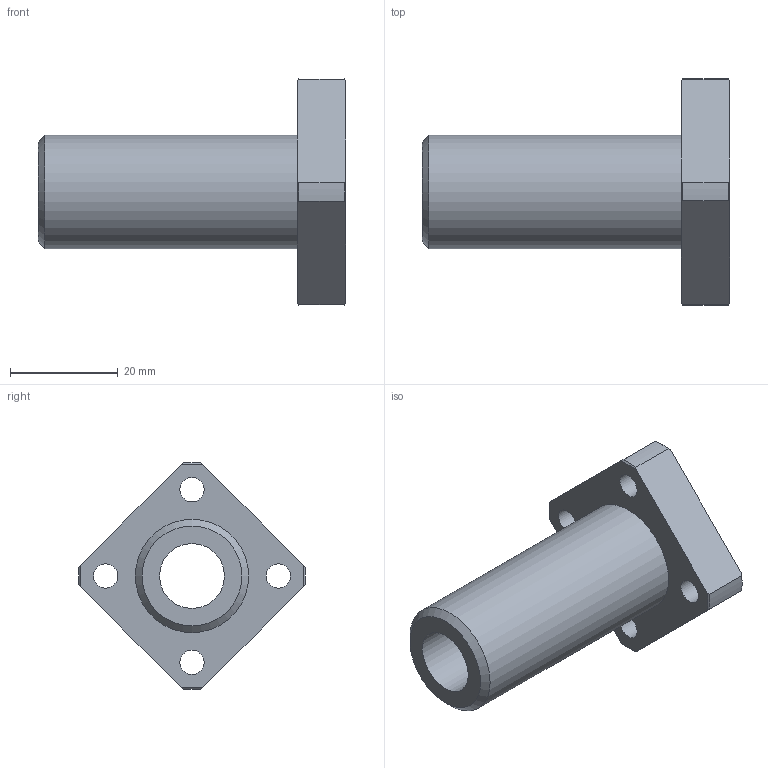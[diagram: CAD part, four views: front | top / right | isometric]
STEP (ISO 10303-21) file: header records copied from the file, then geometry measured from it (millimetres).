
FILE_DESCRIPTION(('STEP AP203'),'1');
FILE_NAME('//192.168.1.1/share/s-4 技術開発/s-4-4_CAD/s-4-4-3_見直し済み/PBC LINEAR修正済み/DFPJ/DFPJ_TOP/DFPJ/DFPJ12.step','2022-03-24T05:05:48',(' '),(' '),'Spatial InterOp 3D',' ',' ');
FILE_SCHEMA(('CONFIG_CONTROL_DESIGN'));
Length unit declared in the file: millimetre
Products named in the file (1): 1
Bounding box: 57 x 41.98 x 41.98 mm (x, y, z)
Volume: 18210.1 mm3; surface area: 8698.5 mm2
Topology: 1 solids, 1 shells, 34 faces, 86 edges, 59 vertices
Faces by surface type: cylinder 14, plane 11, cone 9
Full cylindrical faces by diameter (mm): 4.5 x4, 7.5 x4, 12 x1, 21 x1
Entity records: 1018 total; most frequent: CARTESIAN_POINT 205, DIRECTION 160, ORIENTED_EDGE 138, AXIS2_PLACEMENT_3D 72, EDGE_CURVE 69, EDGE_LOOP 60, VERTEX_POINT 53, FACE_OUTER_BOUND 44
